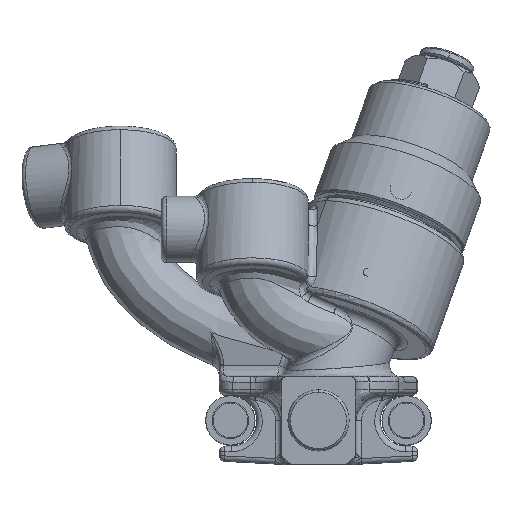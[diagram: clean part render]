
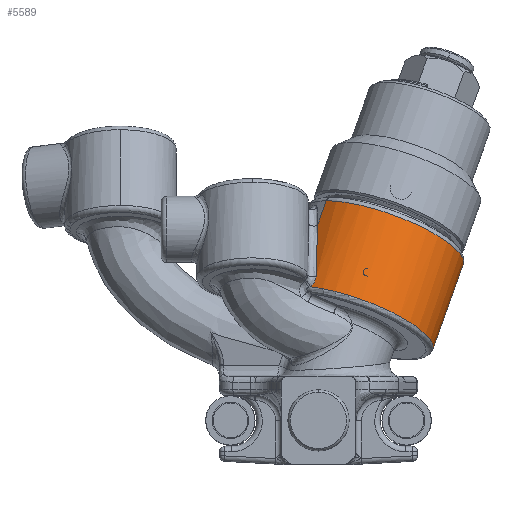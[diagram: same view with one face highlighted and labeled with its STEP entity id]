
A CAD part, top view. The second image highlights one B-rep face of the part: STEP entity #5589.
In plain terms, the highlighted cylindrical face has radius 12.065 mm (diameter 24.13 mm), a partial arc.
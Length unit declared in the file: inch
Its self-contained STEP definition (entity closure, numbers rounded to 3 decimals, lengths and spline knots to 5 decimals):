
#839=CARTESIAN_POINT('',(0.20177,0.56484,
-0.6068));
#840=DIRECTION('',(0.324,0.906,-0.272));
#841=DIRECTION('',(-0.522,0.411,0.748));
#842=AXIS2_PLACEMENT_3D('',#839,#840,#841);
#844=CARTESIAN_POINT('',(-0.04608,0.75985,
-0.2516));
#845=CARTESIAN_POINT('',(-0.04177,0.7633,
-0.25049));
#846=CARTESIAN_POINT('',(-0.03416,0.77052,
-0.24925));
#847=CARTESIAN_POINT('',(-0.02543,0.78207,
-0.24972));
#848=CARTESIAN_POINT('',(-0.01959,0.7931,
-0.2518));
#849=CARTESIAN_POINT('',(-0.01569,0.80415,
-0.25514));
#850=CARTESIAN_POINT('',(-0.01428,0.81272,
-0.25877));
#851=CARTESIAN_POINT('',(-0.0141,0.81715,
-0.26101));
#853=CARTESIAN_POINT('',(-0.0141,0.81715,
-0.26101));
#854=CARTESIAN_POINT('',(-0.01358,0.82995,
-0.26749));
#855=CARTESIAN_POINT('',(-0.01257,0.85507,
-0.2804));
#856=CARTESIAN_POINT('',(-0.01116,0.89056,
-0.2992));
#857=CARTESIAN_POINT('',(-0.00979,0.92615,
-0.31863));
#858=CARTESIAN_POINT('',(-0.00849,0.96184,
-0.33882));
#859=CARTESIAN_POINT('',(-0.00733,0.99669,
-0.35929));
#860=CARTESIAN_POINT('',(-0.0063,1.03197,
-0.38091));
#861=CARTESIAN_POINT('',(-0.00544,1.06904,
-0.40478));
#862=CARTESIAN_POINT('',(-0.00509,1.09602,-0.42331));
#863=CARTESIAN_POINT('',(-0.00503,1.10987,
-0.43328));
#865=DIRECTION('',(-0.324,-0.906,0.272));
#866=VECTOR('',#865,0.15262);
#867=CARTESIAN_POINT('',(0.04438,1.2482,
-0.47474));
#868=LINE('',#867,#866);
#869=CARTESIAN_POINT('',(0.37416,1.04745,
-0.75146));
#870=DIRECTION('',(-0.324,-0.906,0.272));
#871=DIRECTION('',(0.694,-0.423,-0.583));
#872=AXIS2_PLACEMENT_3D('',#869,#870,#871);
#874=DIRECTION('',(-0.324,-0.906,0.272));
#875=VECTOR('',#874,0.5325);
#876=CARTESIAN_POINT('',(0.70394,0.84671,
-1.02818));
#877=LINE('',#876,#875);
#4511=CARTESIAN_POINT('',(0.53155,0.3641,
-0.88352));
#4513=VERTEX_POINT('',#4511);
#4540=CARTESIAN_POINT('',(0.04438,1.2482,
-0.47474));
#4541=CARTESIAN_POINT('',(0.70394,0.84671,
-1.02818));
#4542=VERTEX_POINT('',#4540);
#4543=VERTEX_POINT('',#4541);
#4864=CARTESIAN_POINT('',(-0.04608,0.75985,
-0.2516));
#4865=VERTEX_POINT('',#4864);
#4870=CARTESIAN_POINT('',(-0.00503,1.10987,
-0.43328));
#4871=VERTEX_POINT('',#4870);
#4971=VERTEX_POINT('',#853);
#5572=CARTESIAN_POINT('',(0.46459,1.30059,
-0.82733));
#5573=DIRECTION('',(-0.324,-0.906,0.272));
#5574=DIRECTION('',(-0.694,0.423,0.583));
#5575=AXIS2_PLACEMENT_3D('',#5572,#5573,#5574);
#5576=CYLINDRICAL_SURFACE('',#5575,0.475);
#5578=ORIENTED_EDGE('',*,*,#5577,.F.);
#5580=ORIENTED_EDGE('',*,*,#5579,.T.);
#5582=ORIENTED_EDGE('',*,*,#5581,.T.);
#5583=ORIENTED_EDGE('',*,*,#5515,.F.);
#5585=ORIENTED_EDGE('',*,*,#5584,.F.);
#5586=ORIENTED_EDGE('',*,*,#5511,.T.);
#5587=EDGE_LOOP('',(#5578,#5580,#5582,#5583,#5585,#5586));
#5588=FACE_OUTER_BOUND('',#5587,.F.);
#5589=ADVANCED_FACE('',(#5588),#5576,.T.);
#843=CIRCLE('',#842,0.475);
#852=B_SPLINE_CURVE_WITH_KNOTS('',3,(#844,#845,#846,#847,#848,#849,#850,#851),
.UNSPECIFIED.,.F.,.F.,(4,1,1,1,1,4),(0.,0.2,0.4,0.6,0.8,1.),
.UNSPECIFIED.);
#864=B_SPLINE_CURVE_WITH_KNOTS('',3,(#853,#854,#855,#856,#857,#858,#859,#860,
#861,#862,#863),.UNSPECIFIED.,.F.,.F.,(4,1,1,1,1,1,1,1,4),(0.,0.125,0.25,
0.375,0.5,0.625,0.75,0.875,1.),.UNSPECIFIED.);
#873=CIRCLE('',#872,0.475);
#5511=EDGE_CURVE('',#4543,#4513,#877,.T.);
#5515=EDGE_CURVE('',#4542,#4871,#868,.T.);
#5577=EDGE_CURVE('',#4865,#4513,#843,.T.);
#5579=EDGE_CURVE('',#4865,#4971,#852,.T.);
#5581=EDGE_CURVE('',#4971,#4871,#864,.T.);
#5584=EDGE_CURVE('',#4543,#4542,#873,.T.);
